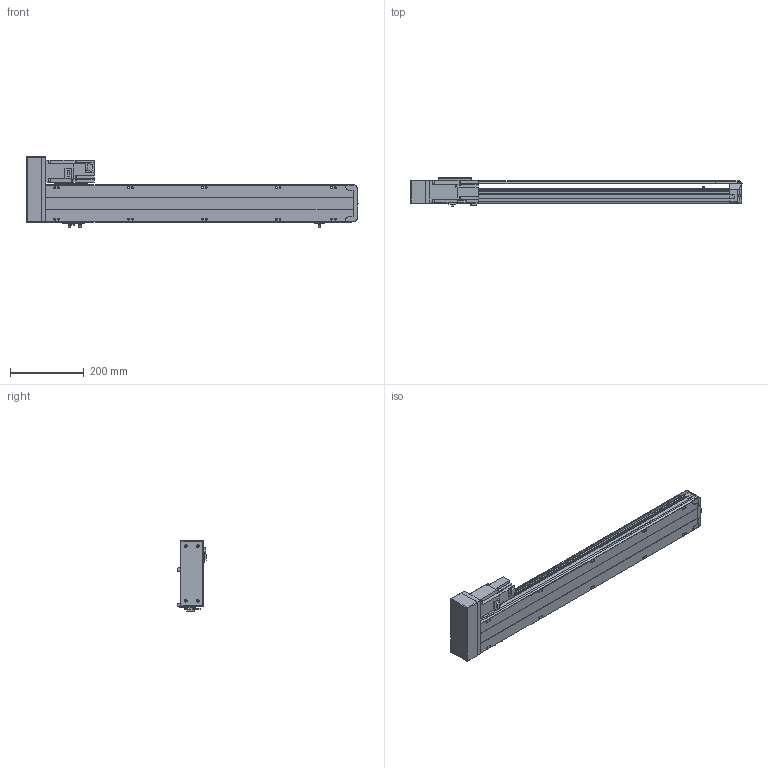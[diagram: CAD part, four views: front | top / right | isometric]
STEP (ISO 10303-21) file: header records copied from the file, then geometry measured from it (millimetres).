
FILE_DESCRIPTION( ( 'STEP AP214' ), '1' );
FILE_NAME( 'x:/temp/worker_27/temp/exporttempdir_6708_85_abius/format_0/PSS120-L10-S650-BL-T40-C1-N(0).stp', '2022-06-06T00:28:34', ( 'License CC BY-ND 4.0' ), ( 'CADENAS' ), ' ', 'PARTsolutions', ' ' );
FILE_SCHEMA( ( 'AUTOMOTIVE_DESIGN { 1 0 10303 214 1 1 1 1 }' ) );
Length unit declared in the file: millimetre
Products named in the file (8): PSS120-L10-S650-BL-T40-C1-N(0); _PSS120-S650-BL-C1-N_body; _PSS120-N_Q; _PSS120-BL-C1-N_sl; _PSS120-N_sensor; _PSS120BL-N_h; _T40-p1; _PSS120-S650-BL-N_S
Assembly tree (9 placements, depth 2):
  PSS120-L10-S650-BL-T40-C1-N(0)
    _PSS120-S650-BL-C1-N_body
    _PSS120-N_Q
    _PSS120-BL-C1-N_sl
    _PSS120-N_sensor  x3
    _PSS120BL-N_h
    _T40-p1
    _PSS120-S650-BL-N_S
Bounding box: 899.35 x 76.8 x 191.2 mm (x, y, z)
Volume: 3662484.8 mm3; surface area: 618067.8 mm2
Topology: 9 solids, 9 shells, 832 faces, 2229 edges, 1474 vertices
Faces by surface type: plane 589, cylinder 221, cone 18, sphere 4
Full cylindrical faces by diameter (mm): 2.8 x3, 4 x4, 4.134 x14, 4.4 x2, 4.5 x4, 4.6 x3, 5 x6, 5.5 x17, 7 x2, 7.4 x4, 8 x4, 8.5 x14, 14 x1, 28 x1, 32 x2, 50 x1
Entity records: 28489 total; most frequent: CARTESIAN_POINT 4383, DIRECTION 3729, ORIENTED_EDGE 3646, EDGE_CURVE 1823, LINE 1313, VECTOR 1313, VERTEX_POINT 1260, AXIS2_PLACEMENT_3D 1208
